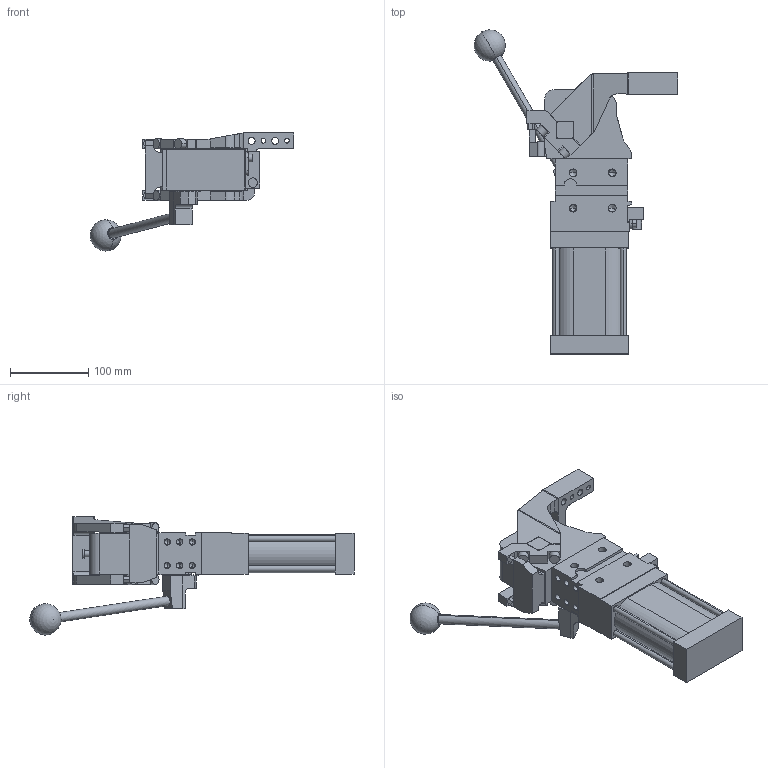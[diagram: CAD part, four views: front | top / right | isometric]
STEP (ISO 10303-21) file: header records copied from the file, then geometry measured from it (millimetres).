
FILE_DESCRIPTION (( 'STEP AP214' ), '1' );
FILE_NAME ('cplm63lbtv3ssi1g_26.STEP', '2023-01-26T15:05:40', ( '' ), ( '' ), 'SwSTEP 2.0', 'SolidWorks 2022', '' );
FILE_SCHEMA (( 'AUTOMOTIVE_DESIGN' ));
Length unit declared in the file: millimetre
Products named in the file (5): leva_v3ss_cpl63t; blocchetto_VEP_0; cplm63lbtv3ssi1g_26; meccanica_cplm_63_tassello_esterno; comando_manuale_cplm_63
Assembly tree (4 placements, depth 2):
  cplm63lbtv3ssi1g_26
    meccanica_cplm_63_tassello_esterno
    blocchetto_VEP_0
    leva_v3ss_cpl63t
    comando_manuale_cplm_63
Bounding box: 260.54 x 414.46 x 151 mm (x, y, z)
Volume: 1930615.1 mm3; surface area: 221161.3 mm2
Topology: 4 solids, 4 shells, 469 faces, 1239 edges, 773 vertices
Faces by surface type: plane 250, cylinder 167, cone 50, sphere 2
Entity records: 15764 total; most frequent: CARTESIAN_POINT 2534, DIRECTION 2493, ORIENTED_EDGE 2376, EDGE_CURVE 1188, AXIS2_PLACEMENT_3D 843, LINE 807, VECTOR 807, VERTEX_POINT 770
